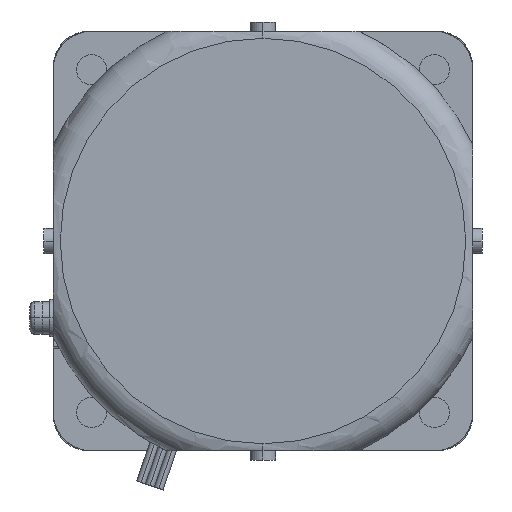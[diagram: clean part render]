
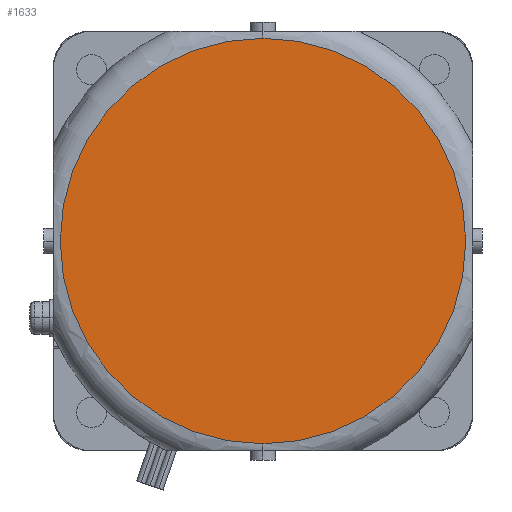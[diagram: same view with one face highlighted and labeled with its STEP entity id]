
A CAD part, left-side view. The second image highlights one B-rep face of the part: STEP entity #1633.
In plain terms, the highlighted planar face has unit normal (-1, 0, 0).
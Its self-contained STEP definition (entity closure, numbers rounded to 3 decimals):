
#1613=CARTESIAN_POINT('POINT769501',(-200.,0.,
   25.5));
#1614=VERTEX_POINT('VERTEX769501',#1613);
#1615=CARTESIAN_POINT('POINT769502',(-200.,0.,
   -61.5));
#1616=VERTEX_POINT('VERTEX769502',#1615);
#1617=CARTESIAN_POINT('POS1280543',(-200.,0.,-18.));
#1618=DIRECTION('DIR1927405',(-1.,0.,0.));
#1619=DIRECTION('DIR1927406',(0.,0.,-1.));
#1620=AXIS2_PLACEMENT_3D('AXIS646863',#1617,#1618,#1619);
#1621=CIRCLE('ELLIPSE302066',#1620,43.5);
#1622=EDGE_CURVE('EDGE1175497',#1614,#1616,#1621,.T.);
#1623=ORIENTED_EDGE('COEDGE2350969',*,*,#1622,.T.);
#1624=EDGE_CURVE('EDGE1175498',#1616,#1614,#1621,.T.);
#1625=ORIENTED_EDGE('COEDGE2350970',*,*,#1624,.T.);
#1626=EDGE_LOOP('NONE',(#1623,#1625));
#1627=FACE_BOUND('LOOP1',#1626,.T.);
#1628=CARTESIAN_POINT('POS1280544',(-200.,0.,
   4.25));
#1629=DIRECTION('DIR1927407',(-1.,0.,0.));
#1630=DIRECTION('DIR1927408',(0.,1.,0.));
#1631=AXIS2_PLACEMENT_3D('AXIS646864',#1628,#1629,#1630);
#1632=PLANE('PLANE208516',#1631);
#1633=ADVANCED_FACE('FACE480785',(#1627),#1632,.T.);
